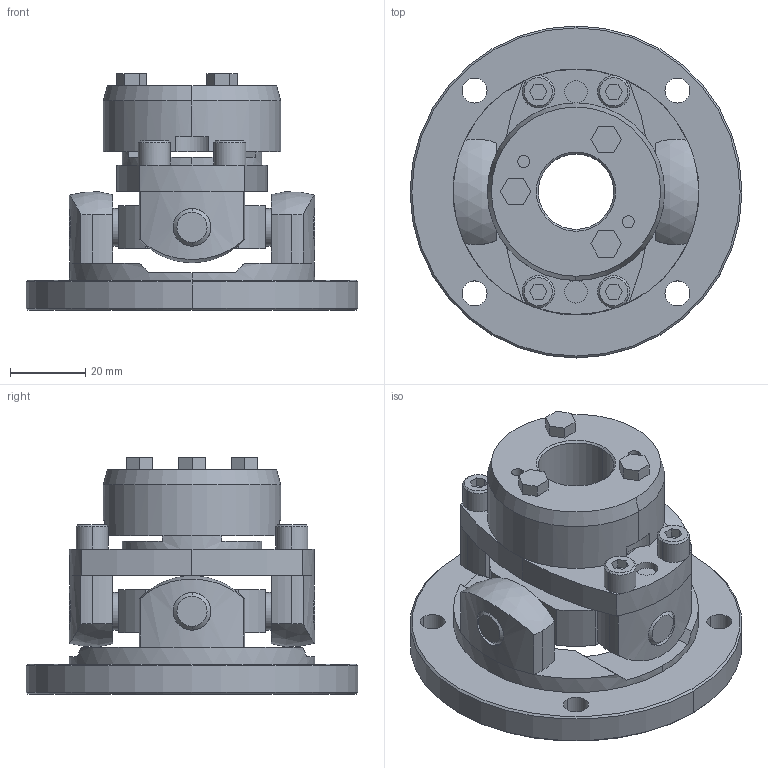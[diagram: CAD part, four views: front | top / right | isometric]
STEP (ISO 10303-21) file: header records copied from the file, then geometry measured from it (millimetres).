
FILE_DESCRIPTION((''),'2;1');
FILE_NAME('UCNF-65T7-20.stp','2011-09-17T16:17:08',(''),(''),'AutoCAD STEP 2000i','AutoCAD 2000i',', , ');
FILE_SCHEMA(('CONFIG_CONTROL_DESIGN'));
Length unit declared in the file: millimetre
Products named in the file (8): UCNF-65T7-19; 忣兜1; UCN65T7-T019; UCN65T7-T017; UCNF-6502; UCN65T7-T015-1; UCN65T7-T015; UCN65-SEN
Assembly tree (7 placements, depth 2):
  UCNF-65T7-19
    忣兜1
    UCN65T7-T019
    UCN65T7-T017
    UCNF-6502
    UCN65T7-T015-1
    UCN65T7-T015
    UCN65-SEN
Bounding box: 88 x 88 x 62.7 mm (x, y, z)
Volume: 115204.1 mm3; surface area: 37892.3 mm2
Topology: 1 solids, 1 shells, 283 faces, 704 edges, 456 vertices
Faces by surface type: plane 131, cylinder 110, cone 38, sphere 4
Entity records: 9077 total; most frequent: CARTESIAN_POINT 1839, DIRECTION 1580, ORIENTED_EDGE 1408, EDGE_CURVE 704, AXIS2_PLACEMENT_3D 601, VERTEX_POINT 456, VECTOR 378, LINE 378
